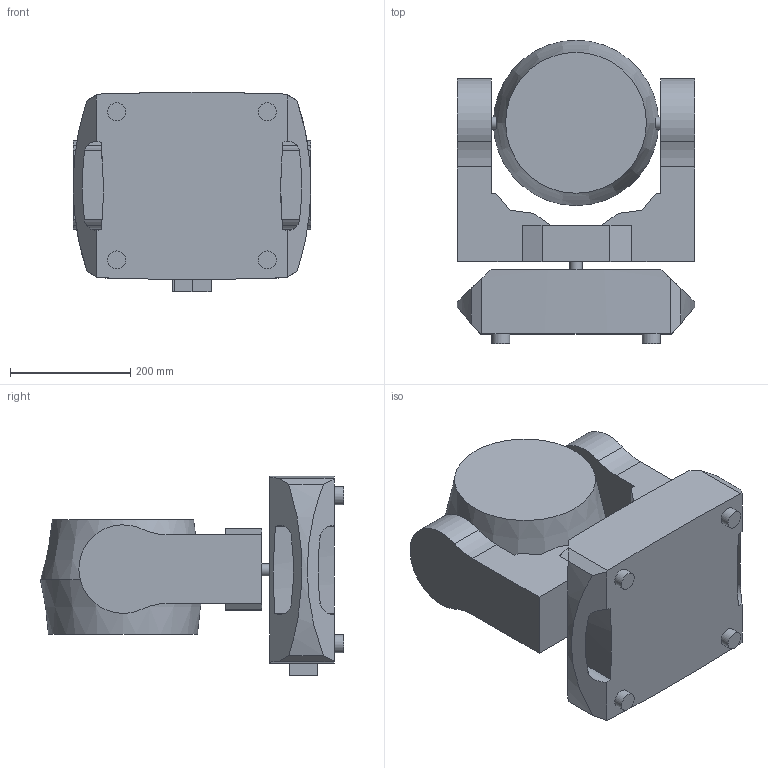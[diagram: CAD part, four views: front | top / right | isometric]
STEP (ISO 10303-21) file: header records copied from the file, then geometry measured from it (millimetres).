
FILE_DESCRIPTION(/* description */ (''),/* implementation_level */ '2;1');
FILE_NAME(/* name */ 'D:/dgooch/Documents/CADENG/PRO/MK Storm Wash/CAD_Simp/90/Maverick_Storm_1_Wash_90.step',/* time_stamp */ '2019-03-18T09:33:07-04:00',/* author */ (''),/* organization */ (''),/* preprocessor_version */ 'ST-DEVELOPER v17.2',/* originating_system */ 'Autodesk Translation Framework v7.6.0.251',/* authorisation */ '');
FILE_SCHEMA (('AUTOMOTIVE_DESIGN { 1 0 10303 214 3 1 1 }'));
Length unit declared in the file: millimetre
Products named in the file (4): Maverick_Storm_1_Wash; Head (1); Arms; Base
Assembly tree (3 placements, depth 2):
  Maverick_Storm_1_Wash
    Head (1)
    Arms
    Base
Bounding box: 394.99 x 504.15 x 330.91 mm (x, y, z)
Volume: 27152618.2 mm3; surface area: 1001242.2 mm2
Topology: 4 solids, 4 shells, 80 faces, 208 edges, 140 vertices
Faces by surface type: plane 48, cylinder 29, cone 2, bspline 1
Full cylindrical faces by diameter (mm): 20 x4, 30 x4, 219.973 x1
Entity records: 2686 total; most frequent: CARTESIAN_POINT 530, DIRECTION 444, ORIENTED_EDGE 416, EDGE_CURVE 208, AXIS2_PLACEMENT_3D 158, VERTEX_POINT 140, LINE 128, VECTOR 128
